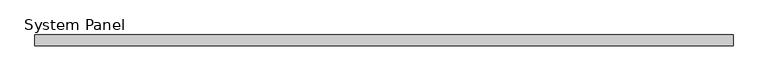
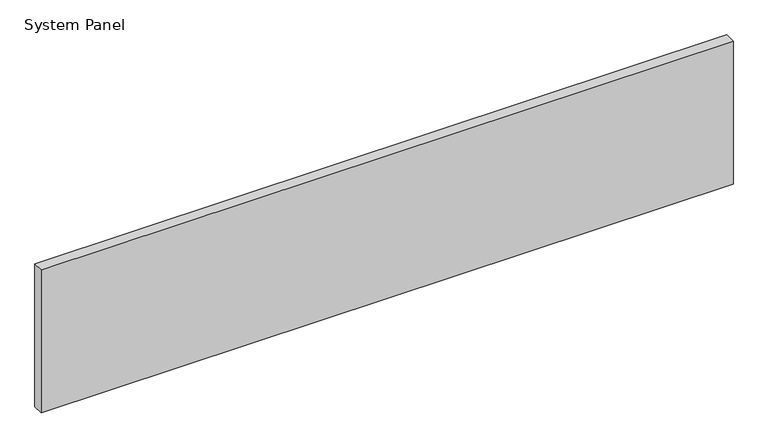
"""IFC4 building model written with IfcOpenShell, lengths in millimetres: plate geometry, System Panel : Glazed - ACMP (AL-1)."""

import ifcopenshell
import ifcopenshell.guid

model = None  # the IFC model being written
_history = None  # IfcOwnerHistory: only IFC2X3 demands one
_inside = {}  # id of a spatial element -> (the spatial element, [elements in it])
_under = {}  # id of a project, library or spatial element -> (it, [spatial elements below it])
_declared = {}  # id of a project -> (the project, [libraries it declares])
_typed = {}  # id of a type object -> (the type object, [elements of that type])
_made_of = {}  # id of a material, layer set ... -> (it, [elements and type objects made of it])


def new_model(schema):
    """Start an empty IFC model of exactly this schema.

    Asked for "IFC4X3", IfcOpenShell would pick the latest addendum, in which some entities
    have other attributes; the version numbers below select the first issue.
    IFC2X3 requires an IfcOwnerHistory on every rooted entity: one is made here for all.
    """
    global model, _history
    if schema == "IFC4X3":
        model = ifcopenshell.file(schema_version=(4, 3, 0, 0))
    else:
        model = ifcopenshell.file(schema=schema)
    _inside.clear()
    _under.clear()
    _declared.clear()
    _typed.clear()
    _made_of.clear()
    _history = None
    if model.schema == "IFC2X3":
        org = make("IfcOrganization", Name="unknown")
        user = make(
            "IfcPersonAndOrganization",
            ThePerson=make("IfcPerson", FamilyName="unknown"),
            TheOrganization=org,
        )
        app = make(
            "IfcApplication",
            ApplicationDeveloper=org,
            Version="unknown",
            ApplicationFullName="unknown",
            ApplicationIdentifier="unknown",
        )
        _history = make(
            "IfcOwnerHistory",
            OwningUser=user,
            OwningApplication=app,
            ChangeAction="ADDED",
            CreationDate=0,
        )
    return model


def make(cls, **values):
    """One entity of the class cls with the attributes given. An attribute that is None is left unset."""
    return model.create_entity(
        cls, **{name: value for name, value in values.items() if value is not None}
    )


def rooted(cls, **values):
    """An entity with a GlobalId (a new one), such as an element, a storey or a relation."""
    return make(cls, GlobalId=ifcopenshell.guid.new(), OwnerHistory=_history, **values)


def si_unit(unit_type, name, prefix=None):
    """IfcSIUnit, for example si_unit("LENGTHUNIT", "METRE", prefix="MILLI")."""
    return make("IfcSIUnit", UnitType=unit_type, Prefix=prefix, Name=name)


def assignment(units):
    """IfcUnitAssignment: the units of a project."""
    return None if units is None else make("IfcUnitAssignment", Units=units)


def point(xyz):
    """IfcCartesianPoint."""
    return None if xyz is None else make("IfcCartesianPoint", Coordinates=xyz)


def direction(xyz):
    """IfcDirection."""
    return None if xyz is None else make("IfcDirection", DirectionRatios=xyz)


def frame(location, z_axis=None, x_axis=None):
    """IfcAxis2Placement3D, a coordinate frame: its origin and axes. An axis left out is left unset."""
    return make(
        "IfcAxis2Placement3D",
        Location=point(location),
        Axis=direction(z_axis),
        RefDirection=direction(x_axis),
    )


def origin():
    """The frame at (0, 0, 0) with its axes left unset."""
    return frame((0.0, 0.0, 0.0))


def origin_with_axes():
    """The frame at (0, 0, 0) with the z axis (0, 0, 1) and the x axis (1, 0, 0) written out."""
    return frame((0.0, 0.0, 0.0), z_axis=(0.0, 0.0, 1.0), x_axis=(1.0, 0.0, 0.0))


def place(relative_to, where):
    """IfcLocalPlacement: puts the frame where relative to a parent placement (None: the world)."""
    return make(
        "IfcLocalPlacement", PlacementRelTo=relative_to, RelativePlacement=where
    )


def context(
    kind, dimensions, precision=None, world=None, true_north=None, identifier=None
):
    """IfcGeometricRepresentationContext, for example the 3D "Model" context."""
    return make(
        "IfcGeometricRepresentationContext",
        ContextIdentifier=identifier,
        ContextType=kind,
        CoordinateSpaceDimension=dimensions,
        Precision=precision,
        WorldCoordinateSystem=world,
        TrueNorth=true_north,
    )


def project(units=None, contexts=None):
    """IfcProject with its units and contexts."""
    return rooted(
        "IfcProject",
        Name="project",
        RepresentationContexts=contexts,
        UnitsInContext=assignment(units),
    )


def spatial(cls, under=None, at=None, **own):
    """A site, building, storey or space (cls), placed at a placement, below another one or the project."""
    s = rooted(cls, ObjectPlacement=at, **own)
    if under is not None:
        _under.setdefault(under.id(), (under, []))[1].append(s)
    return s


def polyline(points):
    """IfcPolyline through the points."""
    return make("IfcPolyline", Points=[point(p) for p in points])


def outline(outer, holes=None, kind="AREA"):
    """IfcArbitraryClosedProfileDef: a profile drawn as a closed curve; with holes, ...WithVoids."""
    if holes is None:
        return make("IfcArbitraryClosedProfileDef", ProfileType=kind, OuterCurve=outer)
    return make(
        "IfcArbitraryProfileDefWithVoids",
        ProfileType=kind,
        OuterCurve=outer,
        InnerCurves=holes,
    )


def extrude(swept, where, along, depth):
    """IfcExtrudedAreaSolid: the profile swept, set in the frame where, extruded along a direction by depth."""
    return make(
        "IfcExtrudedAreaSolid",
        SweptArea=swept,
        Position=where,
        ExtrudedDirection=direction(along),
        Depth=depth,
    )


def shape(context_of_items, identifier, shape_type, items):
    """IfcShapeRepresentation: the items that make up one representation, for example the "Body"."""
    return make(
        "IfcShapeRepresentation",
        ContextOfItems=context_of_items,
        RepresentationIdentifier=identifier,
        RepresentationType=shape_type,
        Items=items,
    )


def source(mapping_origin, context_of_items, identifier, shape_type, items):
    """IfcRepresentationMap: a shape defined once, which mapped items show again and again."""
    return make(
        "IfcRepresentationMap",
        MappingOrigin=mapping_origin,
        MappedRepresentation=shape(context_of_items, identifier, shape_type, items),
    )


def transform(
    local_origin,
    x_axis=None,
    y_axis=None,
    z_axis=None,
    scale=None,
    scale2=None,
    scale3=None,
    uniform=True,
):
    """IfcCartesianTransformationOperator3D, or its non-uniform kind. x_axis, y_axis, z_axis: its Axis1, 2, 3."""
    if uniform:
        return make(
            "IfcCartesianTransformationOperator3D",
            Axis1=direction(x_axis),
            Axis2=direction(y_axis),
            LocalOrigin=point(local_origin),
            Scale=scale,
            Axis3=direction(z_axis),
        )
    return make(
        "IfcCartesianTransformationOperator3DnonUniform",
        Axis1=direction(x_axis),
        Axis2=direction(y_axis),
        LocalOrigin=point(local_origin),
        Scale=scale,
        Axis3=direction(z_axis),
        Scale2=scale2,
        Scale3=scale3,
    )


def mapped(mapping_source, mapping_target):
    """IfcMappedItem: shows the shape of a source again, moved by a transform."""
    return make(
        "IfcMappedItem", MappingSource=mapping_source, MappingTarget=mapping_target
    )


def made_of(thing, what):
    """Note that an element or type object is made of a material, layer set ...; save() writes the relation."""
    if what is not None:
        _made_of.setdefault(what.id(), (what, []))[1].append(thing)
    return thing


def element(
    cls,
    number,
    at=None,
    inside=None,
    cuts=None,
    type_object=None,
    material=None,
    context=None,
    identifier="Body",
    shape_type=None,
    held_by="IfcProductDefinitionShape",
    body=None,
    shapes=None,
    **own,
):
    """One element of the class cls, such as IfcWall. Its Tag is "e" and its number.

    at: its placement. inside: the storey or other place that contains it. cuts: it is an
    opening in that element (IfcRelVoidsElement). A single representation is given by context,
    identifier, shape_type and body (its items); several are given by shapes. held_by: the class
    of the entity that holds the representations. save() writes the other relations.
    """
    e = rooted(cls, Tag="e%d" % number, ObjectPlacement=at, **own)
    if body is not None:
        shapes = [shape(context, identifier, shape_type, body)]
    if shapes is not None:
        e.Representation = make(held_by, Representations=shapes)
    if inside is not None:
        _inside.setdefault(inside.id(), (inside, []))[1].append(e)
    if cuts is not None:
        rooted(
            "IfcRelVoidsElement", RelatingBuildingElement=cuts, RelatedOpeningElement=e
        )
    if type_object is not None:
        _typed.setdefault(type_object.id(), (type_object, []))[1].append(e)
    return made_of(e, material)


def aggregate(whole, parts):
    """IfcRelAggregates: a whole, such as a stair, and the parts it consists of."""
    return rooted("IfcRelAggregates", RelatingObject=whole, RelatedObjects=parts)


def save(model, path):
    """Write the relations noted so far, then the file.

    IfcRelAggregates (storeys below a building ...), IfcRelContainedInSpatialStructure (elements
    in a storey), IfcRelDefinesByType, IfcRelAssociatesMaterial and IfcRelDeclares: one each for
    every whole, place, type object, material and project.
    """
    for whole, parts in _under.values():
        aggregate(whole, parts)
    for where, things in _inside.values():
        rooted(
            "IfcRelContainedInSpatialStructure",
            RelatedElements=things,
            RelatingStructure=where,
        )
    for kind, things in _typed.values():
        rooted("IfcRelDefinesByType", RelatedObjects=things, RelatingType=kind)
    for what, things in _made_of.values():
        rooted("IfcRelAssociatesMaterial", RelatedObjects=things, RelatingMaterial=what)
    for by, libraries in _declared.values():
        rooted("IfcRelDeclares", RelatingContext=by, RelatedDefinitions=libraries)
    model.write(path)


def system_panel_74155291(model_context):
    return source(origin(), model_context, "Body", "SweptSolid", [
        extrude(outline(polyline([(826.6193889, 0.0), (-826.6193889, 0.0), (-826.6193889, 25.4), (826.6193889, 25.4), (826.6193889, 0.0)])), origin_with_axes(), (0.0, 0.0, 1.0), 361.95),
    ])


if __name__ == "__main__":
    model = new_model("IFC4")
    model_context = context("Model", 3, world=origin())
    ifc_project = project(units=[si_unit("LENGTHUNIT", "METRE", prefix="MILLI")], contexts=[model_context])
    site = spatial("IfcSite", under=ifc_project)
    building = spatial("IfcBuilding", under=site)
    placement = place(None, origin())
    system_panel_shape = system_panel_74155291(model_context)
    element("IfcPlate", 1, ObjectType="System Panel : Glazed - ACMP (AL-1)", at=placement, inside=building, context=model_context, shape_type="MappedRepresentation", body=[
        mapped(system_panel_shape, transform((0.0, 0.0, 0.0), x_axis=(1.0, 0.0, 0.0), y_axis=(0.0, 1.0, 0.0), z_axis=(0.0, 0.0, 1.0))),
    ])
    save(model, "model.ifc")
